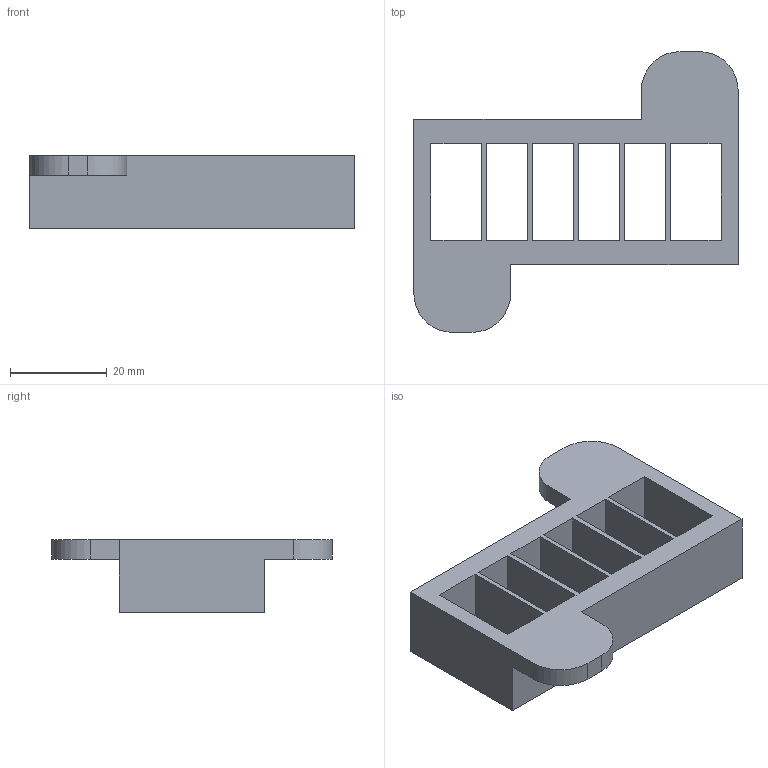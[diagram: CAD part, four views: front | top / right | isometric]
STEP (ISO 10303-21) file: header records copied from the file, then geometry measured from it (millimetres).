
FILE_DESCRIPTION(/* description */ (''),/* implementation_level */ '2;1');
FILE_NAME(/* name */ 'Cavity6CT v1.step',/* time_stamp */ '2024-07-04T14:23:31+05:30',/* author */ (''),/* organization */ (''),/* preprocessor_version */ 'ST-DEVELOPER v20',/* originating_system */ 'Autodesk Translation Framework v13.14.0.145',/* authorisation */ '');
FILE_SCHEMA (('AUTOMOTIVE_DESIGN { 1 0 10303 214 3 1 1 }'));
Length unit declared in the file: millimetre
Products named in the file (1): Cavity6CT
Bounding box: 67 x 58 x 15 mm (x, y, z)
Volume: 15370.2 mm3; surface area: 10589.2 mm2
Topology: 1 solids, 1 shells, 35 faces, 114 edges, 76 vertices
Faces by surface type: plane 31, cylinder 4
Entity records: 1293 total; most frequent: ORIENTED_EDGE 228, CARTESIAN_POINT 226, DIRECTION 194, EDGE_CURVE 114, LINE 106, VECTOR 106, VERTEX_POINT 76, AXIS2_PLACEMENT_3D 44
